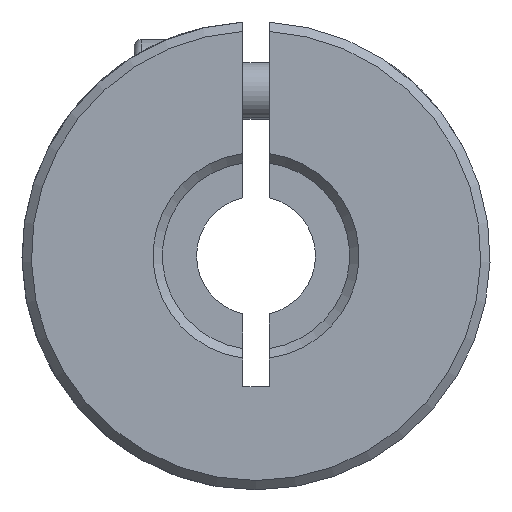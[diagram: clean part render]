
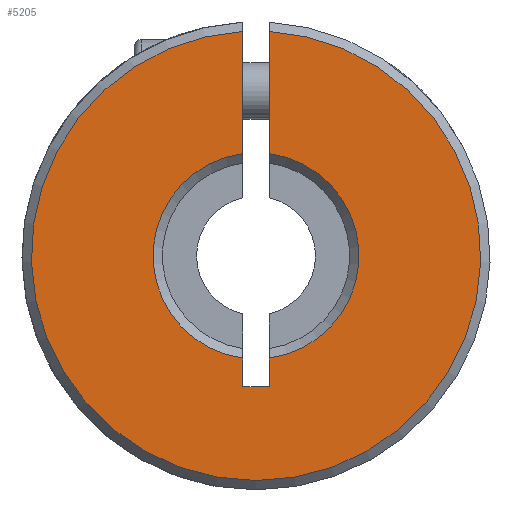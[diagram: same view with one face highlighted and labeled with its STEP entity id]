
A CAD part, front view. The second image highlights one B-rep face of the part: STEP entity #5205.
In plain terms, the highlighted planar face has unit normal (0, -1, 0).
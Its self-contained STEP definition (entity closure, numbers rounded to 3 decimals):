
#25 = VERTEX_POINT ( 'NONE', #1999 ) ;
#242 = CARTESIAN_POINT ( 'NONE',  ( 0.7, 0.25, -5.455 ) ) ;
#251 = AXIS2_PLACEMENT_3D ( 'NONE', #3349, #5007, #1249 ) ;
#265 = CARTESIAN_POINT ( 'NONE',  ( 0.7, 0.25, 5.455 ) ) ;
#342 = VECTOR ( 'NONE', #3131, 1000. ) ;
#363 = CARTESIAN_POINT ( 'NONE',  ( 0.7, 0.25, 11.98 ) ) ;
#399 = DIRECTION ( 'NONE',  ( 0., 0., 1. ) ) ;
#582 = LINE ( 'NONE', #1461, #5084 ) ;
#629 = DIRECTION ( 'NONE',  ( 1., 0., 0. ) ) ;
#640 = EDGE_CURVE ( 'NONE', #3711, #4750, #4789, .T. ) ;
#814 = DIRECTION ( 'NONE',  ( 0., -1., 0. ) ) ;
#842 = CARTESIAN_POINT ( 'NONE',  ( -0.7, 0.25, -7. ) ) ;
#889 = DIRECTION ( 'NONE',  ( 0., 0., 1. ) ) ;
#1154 = ORIENTED_EDGE ( 'NONE', *, *, #640, .F. ) ;
#1182 = CARTESIAN_POINT ( 'NONE',  ( -0.7, 0.25, -7. ) ) ;
#1222 = CARTESIAN_POINT ( 'NONE',  ( 0., 0.25, 0. ) ) ;
#1249 = DIRECTION ( 'NONE',  ( 0., 0., 1. ) ) ;
#1461 = CARTESIAN_POINT ( 'NONE',  ( 0.7, 0.25, -7. ) ) ;
#1523 = VERTEX_POINT ( 'NONE', #2255 ) ;
#1559 = CARTESIAN_POINT ( 'NONE',  ( -0.7, 0.25, 11.98 ) ) ;
#1563 = ORIENTED_EDGE ( 'NONE', *, *, #4625, .F. ) ;
#1591 = AXIS2_PLACEMENT_3D ( 'NONE', #5370, #4821, #4623 ) ;
#1704 = DIRECTION ( 'NONE',  ( 0., 0., -1. ) ) ;
#1964 = ORIENTED_EDGE ( 'NONE', *, *, #2667, .T. ) ;
#1999 = CARTESIAN_POINT ( 'NONE',  ( -0.7, 0.25, 5.455 ) ) ;
#2255 = CARTESIAN_POINT ( 'NONE',  ( -0.7, 0.25, -5.455 ) ) ;
#2335 = CARTESIAN_POINT ( 'NONE',  ( -0.7, 0.25, -7. ) ) ;
#2662 = EDGE_CURVE ( 'NONE', #4048, #2927, #4624, .T. ) ;
#2667 = EDGE_CURVE ( 'NONE', #5102, #5101, #5160, .T. ) ;
#2861 = FACE_OUTER_BOUND ( 'NONE', #4914, .T. ) ;
#2927 = VERTEX_POINT ( 'NONE', #363 ) ;
#3067 = DIRECTION ( 'NONE',  ( 0., 1., 0. ) ) ;
#3131 = DIRECTION ( 'NONE',  ( 0., 0., 1. ) ) ;
#3190 = EDGE_CURVE ( 'NONE', #1523, #3711, #5368, .T. ) ;
#3349 = CARTESIAN_POINT ( 'NONE',  ( 0., 0.25, 0. ) ) ;
#3405 = ORIENTED_EDGE ( 'NONE', *, *, #3638, .F. ) ;
#3638 = EDGE_CURVE ( 'NONE', #4750, #5101, #3934, .T. ) ;
#3689 = PLANE ( 'NONE',  #1591 ) ;
#3711 = VERTEX_POINT ( 'NONE', #2335 ) ;
#3750 = VECTOR ( 'NONE', #1704, 1000. ) ;
#3848 = EDGE_CURVE ( 'NONE', #1523, #25, #4460, .T. ) ;
#3866 = VECTOR ( 'NONE', #5301, 1000. ) ;
#3881 = VECTOR ( 'NONE', #629, 1000. ) ;
#3934 = LINE ( 'NONE', #5283, #342 ) ;
#4048 = VERTEX_POINT ( 'NONE', #1559 ) ;
#4187 = EDGE_CURVE ( 'NONE', #5102, #2927, #582, .T. ) ;
#4381 = CARTESIAN_POINT ( 'NONE',  ( 0.7, 0.25, -7. ) ) ;
#4460 = CIRCLE ( 'NONE', #5082, 5.5 ) ;
#4517 = CARTESIAN_POINT ( 'NONE',  ( 0.7, 0.25, -7. ) ) ;
#4623 = DIRECTION ( 'NONE',  ( 0., 0., 1. ) ) ;
#4624 = CIRCLE ( 'NONE', #5415, 12. ) ;
#4625 = EDGE_CURVE ( 'NONE', #4048, #25, #5274, .T. ) ;
#4636 = CARTESIAN_POINT ( 'NONE',  ( 0., 0.25, 0. ) ) ;
#4662 = ORIENTED_EDGE ( 'NONE', *, *, #2662, .T. ) ;
#4750 = VERTEX_POINT ( 'NONE', #4517 ) ;
#4789 = LINE ( 'NONE', #4381, #3881 ) ;
#4797 = DIRECTION ( 'NONE',  ( 0., 0., 1. ) ) ;
#4821 = DIRECTION ( 'NONE',  ( 0., 1., 0. ) ) ;
#4859 = ORIENTED_EDGE ( 'NONE', *, *, #3848, .T. ) ;
#4914 = EDGE_LOOP ( 'NONE', ( #4973, #1964, #3405, #1154, #5070, #4859, #1563, #4662 ) ) ;
#4973 = ORIENTED_EDGE ( 'NONE', *, *, #4187, .F. ) ;
#5007 = DIRECTION ( 'NONE',  ( 0., 1., 0. ) ) ;
#5070 = ORIENTED_EDGE ( 'NONE', *, *, #3190, .F. ) ;
#5082 = AXIS2_PLACEMENT_3D ( 'NONE', #4636, #3067, #889 ) ;
#5084 = VECTOR ( 'NONE', #4797, 1000. ) ;
#5101 = VERTEX_POINT ( 'NONE', #242 ) ;
#5102 = VERTEX_POINT ( 'NONE', #265 ) ;
#5160 = CIRCLE ( 'NONE', #251, 5.5 ) ;
#5205 = ADVANCED_FACE ( 'NONE', ( #2861 ), #3689, .F. ) ;
#5274 = LINE ( 'NONE', #1182, #3866 ) ;
#5283 = CARTESIAN_POINT ( 'NONE',  ( 0.7, 0.25, -7. ) ) ;
#5301 = DIRECTION ( 'NONE',  ( 0., 0., -1. ) ) ;
#5368 = LINE ( 'NONE', #842, #3750 ) ;
#5370 = CARTESIAN_POINT ( 'NONE',  ( 12.5, 0.25, -50. ) ) ;
#5415 = AXIS2_PLACEMENT_3D ( 'NONE', #1222, #814, #399 ) ;
